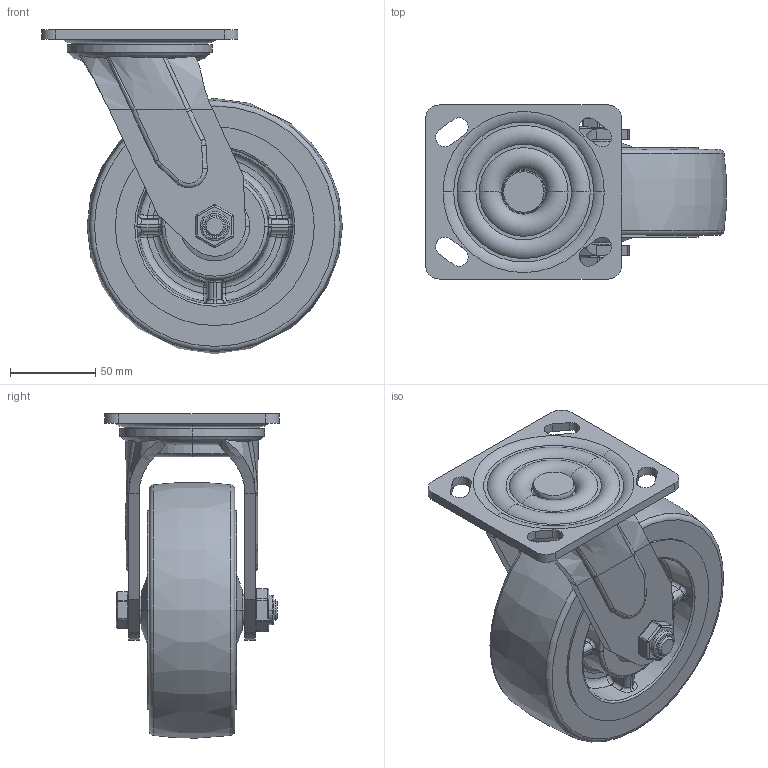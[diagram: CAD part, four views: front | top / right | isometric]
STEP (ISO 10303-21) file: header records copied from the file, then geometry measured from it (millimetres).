
FILE_DESCRIPTION(/* description */ (''),/* implementation_level */ '2;1');
FILE_NAME(/* name */ '35A75_6_F.stp',/* time_stamp */ '2022-08-27T16:08:25+08:00',/* author */ (''),/* organization */ (''),/* preprocessor_version */ 'ST-DEVELOPER v14',/* originating_system */ 'SIEMENS PLM Software NX 8.0',/* authorisation */ '');
FILE_SCHEMA (('AUTOMOTIVE_DESIGN { 1 0 10303 214 3 1 1 1 }'));
Length unit declared in the file: millimetre
Products named in the file (1): 35A75_6_F
Bounding box: 176.32 x 102 x 189.98 mm (x, y, z)
Volume: 1003461.9 mm3; surface area: 140833.9 mm2
Topology: 1 solids, 1 shells, 678 faces, 1664 edges, 1016 vertices
Faces by surface type: plane 274, bspline 169, cylinder 139, torus 50, cone 32, sphere 12, extrusion 2
Entity records: 27439 total; most frequent: CARTESIAN_POINT 13484, ORIENTED_EDGE 3294, DIRECTION 2325, EDGE_CURVE 1647, VERTEX_POINT 1014, AXIS2_PLACEMENT_3D 874, EDGE_LOOP 731, ADVANCED_FACE 678
